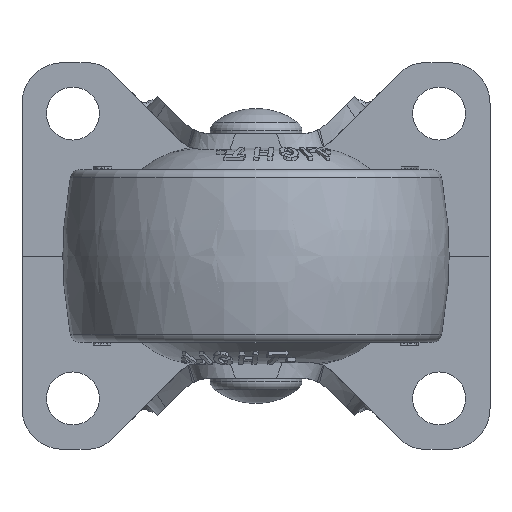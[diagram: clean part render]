
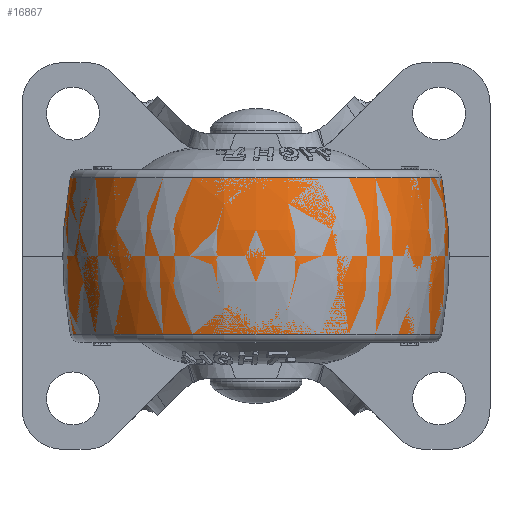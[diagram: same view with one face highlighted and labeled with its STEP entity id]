
A CAD part, front view. The second image highlights one B-rep face of the part: STEP entity #16867.
In plain terms, the highlighted free-form (B-spline) face has degree [3, 3] with [7, 4] control points.
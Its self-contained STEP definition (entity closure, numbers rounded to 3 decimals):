
#16733=CARTESIAN_POINT('',(-21.,0.,0.));
#16734=DIRECTION('',(0.,1.,0.));
#16735=DIRECTION('',(0.981,0.,0.192));
#16736=AXIS2_PLACEMENT_3D('',#16733,#16734,#16735);
#16738=CARTESIAN_POINT('',(21.,0.,0.));
#16739=DIRECTION('',(0.,-1.,0.));
#16740=DIRECTION('',(-0.981,0.,0.192));
#16741=AXIS2_PLACEMENT_3D('',#16738,#16739,#16740);
#16743=CARTESIAN_POINT('',(0.,0.,7.692));
#16744=DIRECTION('',(0.,0.,-1.));
#16745=DIRECTION('',(1.,0.,0.));
#16746=AXIS2_PLACEMENT_3D('',#16743,#16744,#16745);
#16778=CARTESIAN_POINT('',(0.,0.,-7.692));
#16779=DIRECTION('',(0.,0.,-1.));
#16780=DIRECTION('',(1.,0.,0.));
#16781=AXIS2_PLACEMENT_3D('',#16778,#16779,#16780);
#16784=CARTESIAN_POINT('',(18.253,0.,7.692));
#16786=VERTEX_POINT('',#16784);
#16787=CARTESIAN_POINT('',(18.253,0.,-7.692));
#16788=VERTEX_POINT('',#16787);
#16792=CARTESIAN_POINT('',(-18.253,0.,7.692));
#16794=VERTEX_POINT('',#16792);
#16795=CARTESIAN_POINT('',(-18.253,0.,-7.692));
#16796=VERTEX_POINT('',#16795);
#16829=CARTESIAN_POINT('',(-18.157,1.142,
-7.996));
#16830=CARTESIAN_POINT('',(-19.235,1.21,
-2.702));
#16831=CARTESIAN_POINT('',(-19.235,1.21,
2.702));
#16832=CARTESIAN_POINT('',(-18.157,1.142,
7.996));
#16833=CARTESIAN_POINT('',(-18.86,-10.031,
-7.996));
#16834=CARTESIAN_POINT('',(-19.979,-10.627,
-2.702));
#16835=CARTESIAN_POINT('',(-19.979,-10.627,
2.702));
#16836=CARTESIAN_POINT('',(-18.86,-10.031,
7.996));
#16837=CARTESIAN_POINT('',(-11.196,-18.193,
-7.996));
#16838=CARTESIAN_POINT('',(-11.86,-19.273,
-2.702));
#16839=CARTESIAN_POINT('',(-11.86,-19.273,
2.702));
#16840=CARTESIAN_POINT('',(-11.196,-18.193,
7.996));
#16841=CARTESIAN_POINT('',(0.,-18.193,-7.996));
#16842=CARTESIAN_POINT('',(0.,-19.273,-2.702));
#16843=CARTESIAN_POINT('',(0.,-19.273,2.702));
#16844=CARTESIAN_POINT('',(0.,-18.193,7.996));
#16845=CARTESIAN_POINT('',(11.196,-18.193,
-7.996));
#16846=CARTESIAN_POINT('',(11.86,-19.273,
-2.702));
#16847=CARTESIAN_POINT('',(11.86,-19.273,
2.702));
#16848=CARTESIAN_POINT('',(11.196,-18.193,
7.996));
#16849=CARTESIAN_POINT('',(18.86,-10.031,
-7.996));
#16850=CARTESIAN_POINT('',(19.979,-10.627,
-2.702));
#16851=CARTESIAN_POINT('',(19.979,-10.627,
2.702));
#16852=CARTESIAN_POINT('',(18.86,-10.031,
7.996));
#16853=CARTESIAN_POINT('',(18.157,1.142,
-7.996));
#16854=CARTESIAN_POINT('',(19.235,1.21,
-2.702));
#16855=CARTESIAN_POINT('',(19.235,1.21,2.702));
#16856=CARTESIAN_POINT('',(18.157,1.142,7.996));
#16857=(BOUNDED_SURFACE()B_SPLINE_SURFACE(3,3,((#16829,#16830,#16831,#16832),(
#16833,#16834,#16835,#16836),(#16837,#16838,#16839,#16840),(#16841,#16842,
#16843,#16844),(#16845,#16846,#16847,#16848),(#16849,#16850,#16851,#16852),(
#16853,#16854,#16855,#16856)),.UNSPECIFIED.,.F.,.F.,.F.)B_SPLINE_SURFACE_WITH_KNOTS((4,3,4),(4,4),(0.,1.,2.),(0.,1.),.UNSPECIFIED.)GEOMETRIC_REPRESENTATION_ITEM()RATIONAL_B_SPLINE_SURFACE(((1.199,1.183,
1.183,1.199),(0.947,0.934,
0.934,0.947),(0.947,0.934,
0.934,0.947),(1.199,1.183,
1.183,1.199),(0.947,0.934,
0.934,0.947),(0.947,0.934,
0.934,0.947),(1.199,1.183,
1.183,1.199)))REPRESENTATION_ITEM('')SURFACE());
#16859=ORIENTED_EDGE('',*,*,#16858,.T.);
#16861=ORIENTED_EDGE('',*,*,#16860,.T.);
#16863=ORIENTED_EDGE('',*,*,#16862,.F.);
#16864=ORIENTED_EDGE('',*,*,#16821,.F.);
#16865=EDGE_LOOP('',(#16859,#16861,#16863,#16864));
#16866=FACE_OUTER_BOUND('',#16865,.F.);
#16737=CIRCLE('',#16736,40.);
#16742=CIRCLE('',#16741,40.);
#16747=CIRCLE('',#16746,18.253);
#16782=CIRCLE('',#16781,18.253);
#16821=EDGE_CURVE('',#16786,#16794,#16747,.T.);
#16858=EDGE_CURVE('',#16786,#16788,#16737,.T.);
#16860=EDGE_CURVE('',#16788,#16796,#16782,.T.);
#16862=EDGE_CURVE('',#16794,#16796,#16742,.T.);
#16867=ADVANCED_FACE('',(#16866),#16857,.T.);
